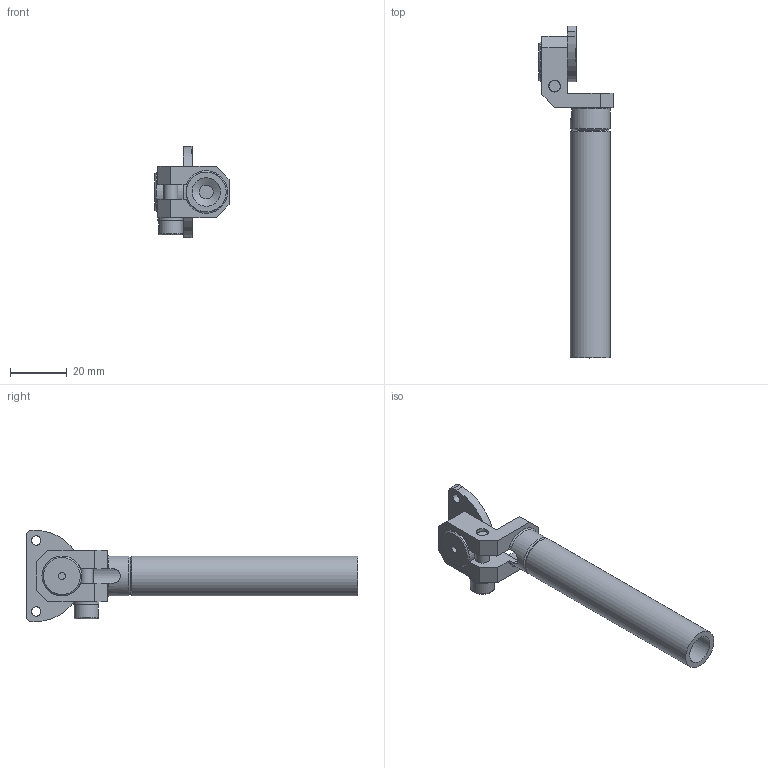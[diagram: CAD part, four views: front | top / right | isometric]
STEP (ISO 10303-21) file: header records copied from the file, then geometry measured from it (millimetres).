
FILE_DESCRIPTION(('STEP AP214'),'1');
FILE_NAME('CA.ATK.10.14.80.stp','2016-06-09T08:14:30',(' '),(' '),'Spatial InterOp 3D',' ',' ');
FILE_SCHEMA(('automotive_design'));
Length unit declared in the file: millimetre
Products named in the file (8): GGB.14.80.1; SSN.14201818.1; R.5.SCH; V-tcei M  5 x 18; V-tspei M  3 x 8; ATK.10.14.1; ATK.10.14.2
Assembly tree (7 placements, depth 2):
  (unnamed)
    GGB.14.80.1
    SSN.14201818.1
    R.5.SCH
    V-tcei M  5 x 18
    V-tspei M  3 x 8
    ATK.10.14.1
    ATK.10.14.2
Bounding box: 26 x 116.6 x 32 mm (x, y, z)
Volume: 13992.7 mm3; surface area: 12221.8 mm2
Topology: 6 solids, 7 shells, 282 faces, 798 edges, 528 vertices
Faces by surface type: plane 240, cylinder 26, cone 10, torus 6
Full cylindrical faces by diameter (mm): 2.459 x1, 2.6 x1, 3 x1, 3.3 x3, 4.2 x1, 4.5 x1, 4.917 x1, 5 x1, 5.2 x1, 5.3 x1, 6 x1, 8.5 x1, 9 x1, 10 x2, 13.95 x2, 14 x2
Entity records: 11395 total; most frequent: CARTESIAN_POINT 1645, DIRECTION 1570, ORIENTED_EDGE 1490, EDGE_CURVE 745, AXIS2_PLACEMENT_3D 541, VERTEX_POINT 512, LINE 488, VECTOR 488
